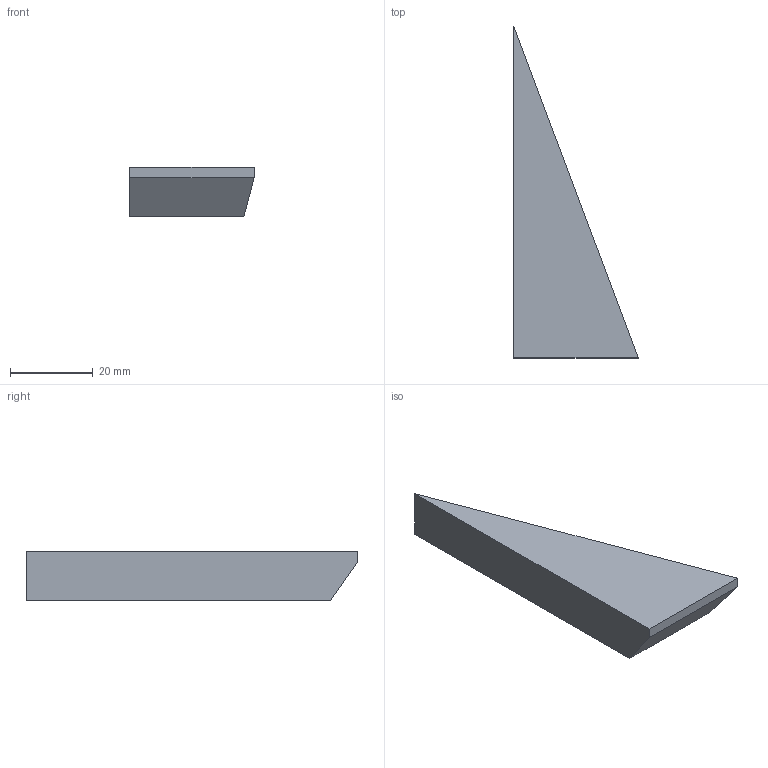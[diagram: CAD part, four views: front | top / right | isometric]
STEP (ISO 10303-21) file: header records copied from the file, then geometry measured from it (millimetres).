
FILE_DESCRIPTION(('Open CASCADE Model'),'2;1');
FILE_NAME('Open CASCADE Shape Model','2026-10-15T15:10:11',('Author'),( 'Open CASCADE'),'Open CASCADE STEP processor 8.0','Open CASCADE 8.0' ,'Unknown');
FILE_SCHEMA(('AUTOMOTIVE_DESIGN { 1 0 10303 214 1 1 1 1 }'));
Length unit declared in the file: millimetre
Products named in the file (1): U05_CARTELA_30x80x12_P05_JUNTA_56 237
Bounding box: 30 x 80 x 12 mm (x, y, z)
Volume: 13481 mm3; surface area: 4537.5 mm2
Topology: 1 solids, 1 shells, 6 faces, 12 edges, 8 vertices
Faces by surface type: plane 6
Entity records: 314 total; most frequent: CARTESIAN_POINT 59, DIRECTION 42, LINE 28, VECTOR 28, ORIENTED_EDGE 24, PCURVE 24, DEFINITIONAL_REPRESENTATION 24, EDGE_CURVE 12
